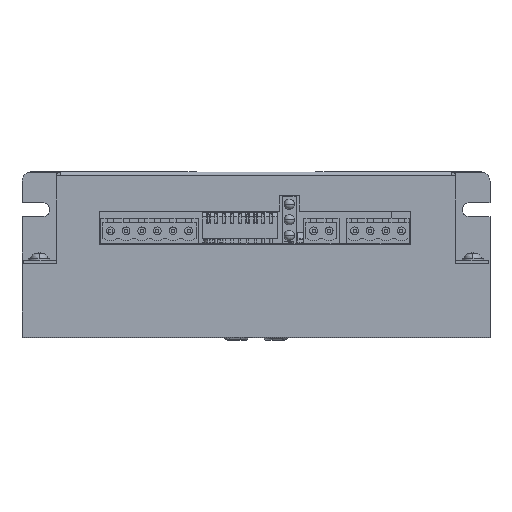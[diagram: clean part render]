
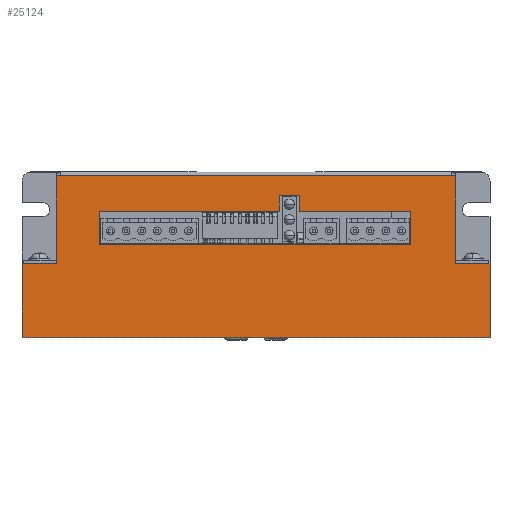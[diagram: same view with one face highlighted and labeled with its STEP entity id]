
A CAD part, top view. The second image highlights one B-rep face of the part: STEP entity #25124.
In plain terms, the highlighted planar face has unit normal (0, 0, 1).
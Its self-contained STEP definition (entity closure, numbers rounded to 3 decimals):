
#2526=DIRECTION('',(-1.,0.,0.));
#2527=VECTOR('',#2526,11.2);
#2528=CARTESIAN_POINT('',(-64.9,-30.,47.15));
#2529=LINE('',#2528,#2527);
#2530=DIRECTION('',(0.,1.,0.));
#2531=VECTOR('',#2530,0.2);
#2532=CARTESIAN_POINT('',(63.7,-1.4,47.15));
#2533=LINE('',#2532,#2531);
#2534=DIRECTION('',(-1.,0.,0.));
#2535=VECTOR('',#2534,11.2);
#2536=CARTESIAN_POINT('',(76.1,-30.,47.15));
#2537=LINE('',#2536,#2535);
#2538=DIRECTION('',(0.,1.,0.));
#2539=VECTOR('',#2538,23.9);
#2540=CARTESIAN_POINT('',(76.1,-53.9,47.15));
#2541=LINE('',#2540,#2539);
#2542=DIRECTION('',(0.,-1.,0.));
#2543=VECTOR('',#2542,23.9);
#2544=CARTESIAN_POINT('',(-76.1,-30.,47.15));
#2545=LINE('',#2544,#2543);
#2546=DIRECTION('',(0.,-1.,0.));
#2547=VECTOR('',#2546,10.6);
#2548=CARTESIAN_POINT('',(-51.04,-13.,47.15));
#2549=LINE('',#2548,#2547);
#2554=DIRECTION('',(-1.,0.,0.));
#2555=VECTOR('',#2554,58.61);
#2556=CARTESIAN_POINT('',(7.57,-13.,47.15));
#2557=LINE('',#2556,#2555);
#2566=DIRECTION('',(0.,-1.,0.));
#2567=VECTOR('',#2566,5.2);
#2568=CARTESIAN_POINT('',(7.57,-7.8,47.15));
#2569=LINE('',#2568,#2567);
#2578=DIRECTION('',(-1.,0.,0.));
#2579=VECTOR('',#2578,6.53);
#2580=CARTESIAN_POINT('',(14.1,-7.8,47.15));
#2581=LINE('',#2580,#2579);
#2590=DIRECTION('',(0.,1.,0.));
#2591=VECTOR('',#2590,5.2);
#2592=CARTESIAN_POINT('',(14.1,-13.,47.15));
#2593=LINE('',#2592,#2591);
#2602=DIRECTION('',(-1.,0.,0.));
#2603=VECTOR('',#2602,36.255);
#2604=CARTESIAN_POINT('',(50.355,-13.,47.15));
#2605=LINE('',#2604,#2603);
#2614=DIRECTION('',(0.,1.,0.));
#2615=VECTOR('',#2614,10.6);
#2616=CARTESIAN_POINT('',(50.355,-23.6,47.15));
#2617=LINE('',#2616,#2615);
#2626=DIRECTION('',(1.,0.,0.));
#2627=VECTOR('',#2626,101.395);
#2628=CARTESIAN_POINT('',(-51.04,-23.6,47.15));
#2629=LINE('',#2628,#2627);
#2650=DIRECTION('',(0.,-1.,0.));
#2651=VECTOR('',#2650,28.6);
#2652=CARTESIAN_POINT('',(64.9,-1.4,47.15));
#2653=LINE('',#2652,#2651);
#2662=DIRECTION('',(1.,0.,0.));
#2663=VECTOR('',#2662,1.2);
#2664=CARTESIAN_POINT('',(63.7,-1.4,47.15));
#2665=LINE('',#2664,#2663);
#2679=DIRECTION('',(-1.,0.,0.));
#2680=VECTOR('',#2679,127.4);
#2681=CARTESIAN_POINT('',(63.7,-1.2,47.15));
#2682=LINE('',#2681,#2680);
#2692=DIRECTION('',(0.,1.,0.));
#2693=VECTOR('',#2692,0.2);
#2694=CARTESIAN_POINT('',(-63.7,-1.4,47.15));
#2695=LINE('',#2694,#2693);
#2708=DIRECTION('',(1.,0.,0.));
#2709=VECTOR('',#2708,1.2);
#2710=CARTESIAN_POINT('',(-64.9,-1.4,47.15));
#2711=LINE('',#2710,#2709);
#2728=DIRECTION('',(0.,1.,0.));
#2729=VECTOR('',#2728,28.6);
#2730=CARTESIAN_POINT('',(-64.9,-30.,47.15));
#2731=LINE('',#2730,#2729);
#4684=DIRECTION('',(1.,0.,0.));
#4685=VECTOR('',#4684,152.2);
#4686=CARTESIAN_POINT('',(-76.1,-53.9,47.15));
#4687=LINE('',#4686,#4685);
#18751=CARTESIAN_POINT('',(-63.7,-1.2,47.15));
#18752=VERTEX_POINT('',#18751);
#18753=CARTESIAN_POINT('',(63.7,-1.2,47.15));
#18754=VERTEX_POINT('',#18753);
#18755=CARTESIAN_POINT('',(63.7,-1.4,47.15));
#18756=VERTEX_POINT('',#18755);
#18759=CARTESIAN_POINT('',(64.9,-1.4,47.15));
#18760=VERTEX_POINT('',#18759);
#18761=CARTESIAN_POINT('',(-64.9,-1.4,47.15));
#18762=CARTESIAN_POINT('',(-63.7,-1.4,47.15));
#18763=VERTEX_POINT('',#18761);
#18764=VERTEX_POINT('',#18762);
#18765=CARTESIAN_POINT('',(-51.04,-13.,47.15));
#18766=CARTESIAN_POINT('',(-51.04,-23.6,47.15));
#18767=VERTEX_POINT('',#18765);
#18768=VERTEX_POINT('',#18766);
#18769=CARTESIAN_POINT('',(50.355,-23.6,47.15));
#18770=VERTEX_POINT('',#18769);
#18771=CARTESIAN_POINT('',(50.355,-13.,47.15));
#18772=VERTEX_POINT('',#18771);
#18773=CARTESIAN_POINT('',(14.1,-13.,47.15));
#18774=VERTEX_POINT('',#18773);
#18775=CARTESIAN_POINT('',(14.1,-7.8,47.15));
#18776=VERTEX_POINT('',#18775);
#18777=CARTESIAN_POINT('',(7.57,-7.8,47.15));
#18778=VERTEX_POINT('',#18777);
#18779=CARTESIAN_POINT('',(7.57,-13.,47.15));
#18780=VERTEX_POINT('',#18779);
#19608=CARTESIAN_POINT('',(76.1,-53.9,47.15));
#19609=VERTEX_POINT('',#19608);
#19610=CARTESIAN_POINT('',(76.1,-30.,47.15));
#19611=VERTEX_POINT('',#19610);
#19614=CARTESIAN_POINT('',(-76.1,-30.,47.15));
#19615=VERTEX_POINT('',#19614);
#19616=CARTESIAN_POINT('',(-76.1,-53.9,47.15));
#19617=VERTEX_POINT('',#19616);
#22428=CARTESIAN_POINT('',(-64.9,-30.,47.15));
#22429=VERTEX_POINT('',#22428);
#22430=CARTESIAN_POINT('',(64.9,-30.,47.15));
#22431=VERTEX_POINT('',#22430);
#25079=CARTESIAN_POINT('',(0.,-41.95,47.15));
#25080=DIRECTION('',(0.,0.,1.));
#25081=DIRECTION('',(1.,0.,0.));
#25082=AXIS2_PLACEMENT_3D('',#25079,#25080,#25081);
#25083=PLANE('',#25082);
#25084=ORIENTED_EDGE('',*,*,#24190,.F.);
#25086=ORIENTED_EDGE('',*,*,#25085,.T.);
#25088=ORIENTED_EDGE('',*,*,#25087,.T.);
#25090=ORIENTED_EDGE('',*,*,#25089,.T.);
#25092=ORIENTED_EDGE('',*,*,#25091,.F.);
#25094=ORIENTED_EDGE('',*,*,#25093,.F.);
#25096=ORIENTED_EDGE('',*,*,#25095,.T.);
#25098=ORIENTED_EDGE('',*,*,#25097,.T.);
#25099=ORIENTED_EDGE('',*,*,#24198,.F.);
#25100=ORIENTED_EDGE('',*,*,#24515,.F.);
#25102=ORIENTED_EDGE('',*,*,#25101,.F.);
#25103=ORIENTED_EDGE('',*,*,#24901,.F.);
#25104=EDGE_LOOP('',(#25084,#25086,#25088,#25090,#25092,#25094,#25096,#25098,
#25099,#25100,#25102,#25103));
#25105=FACE_OUTER_BOUND('',#25104,.F.);
#25107=ORIENTED_EDGE('',*,*,#25106,.T.);
#25109=ORIENTED_EDGE('',*,*,#25108,.T.);
#25111=ORIENTED_EDGE('',*,*,#25110,.T.);
#25113=ORIENTED_EDGE('',*,*,#25112,.T.);
#25115=ORIENTED_EDGE('',*,*,#25114,.T.);
#25117=ORIENTED_EDGE('',*,*,#25116,.T.);
#25119=ORIENTED_EDGE('',*,*,#25118,.T.);
#25121=ORIENTED_EDGE('',*,*,#25120,.T.);
#25122=EDGE_LOOP('',(#25107,#25109,#25111,#25113,#25115,#25117,#25119,#25121));
#25123=FACE_BOUND('',#25122,.F.);
#25124=ADVANCED_FACE('',(#25105,#25123),#25083,.T.);
#24190=EDGE_CURVE('',#22429,#19615,#2529,.T.);
#24198=EDGE_CURVE('',#19611,#22431,#2537,.T.);
#24515=EDGE_CURVE('',#19609,#19611,#2541,.T.);
#24901=EDGE_CURVE('',#19615,#19617,#2545,.T.);
#25085=EDGE_CURVE('',#22429,#18763,#2731,.T.);
#25087=EDGE_CURVE('',#18763,#18764,#2711,.T.);
#25089=EDGE_CURVE('',#18764,#18752,#2695,.T.);
#25091=EDGE_CURVE('',#18754,#18752,#2682,.T.);
#25093=EDGE_CURVE('',#18756,#18754,#2533,.T.);
#25095=EDGE_CURVE('',#18756,#18760,#2665,.T.);
#25097=EDGE_CURVE('',#18760,#22431,#2653,.T.);
#25101=EDGE_CURVE('',#19617,#19609,#4687,.T.);
#25106=EDGE_CURVE('',#18767,#18768,#2549,.T.);
#25108=EDGE_CURVE('',#18768,#18770,#2629,.T.);
#25110=EDGE_CURVE('',#18770,#18772,#2617,.T.);
#25112=EDGE_CURVE('',#18772,#18774,#2605,.T.);
#25114=EDGE_CURVE('',#18774,#18776,#2593,.T.);
#25116=EDGE_CURVE('',#18776,#18778,#2581,.T.);
#25118=EDGE_CURVE('',#18778,#18780,#2569,.T.);
#25120=EDGE_CURVE('',#18780,#18767,#2557,.T.);
